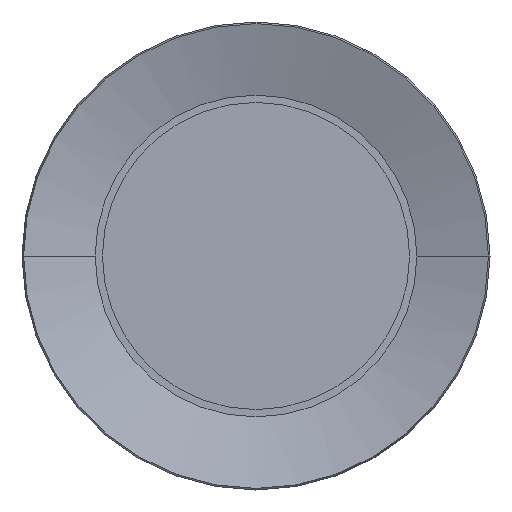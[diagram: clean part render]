
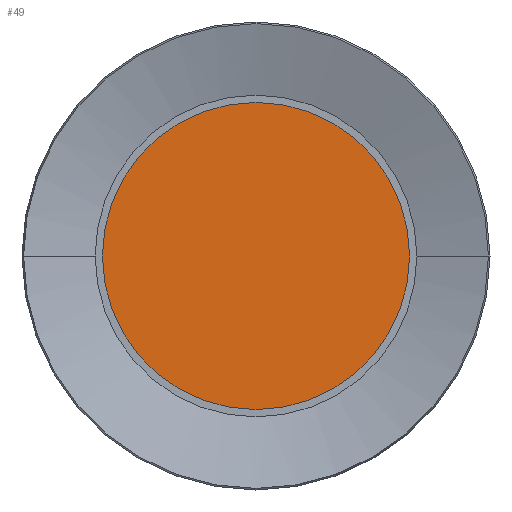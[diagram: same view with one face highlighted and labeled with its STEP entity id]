
A CAD part, front view. The second image highlights one B-rep face of the part: STEP entity #49.
In plain terms, the highlighted planar face has unit normal (0, -1, 0).
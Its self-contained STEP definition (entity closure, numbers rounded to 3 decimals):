
#2=CARTESIAN_POINT('',(0.,0.,0.));
#3=DIRECTION('',(0.,1.,0.));
#4=DIRECTION('',(1.,0.,0.));
#5=AXIS2_PLACEMENT_3D('',#2,#3,#4);
#7=CARTESIAN_POINT('',(0.,0.,0.));
#8=DIRECTION('',(0.,1.,0.));
#9=DIRECTION('',(-1.,0.,0.));
#10=AXIS2_PLACEMENT_3D('',#7,#8,#9);
#30=CARTESIAN_POINT('',(105.,0.,0.));
#31=CARTESIAN_POINT('',(-105.,0.,0.));
#32=VERTEX_POINT('',#30);
#33=VERTEX_POINT('',#31);
#38=CARTESIAN_POINT('',(0.,0.,0.));
#39=DIRECTION('',(0.,1.,0.));
#40=DIRECTION('',(1.,0.,0.));
#41=AXIS2_PLACEMENT_3D('',#38,#39,#40);
#42=PLANE('',#41);
#44=ORIENTED_EDGE('',*,*,#43,.T.);
#46=ORIENTED_EDGE('',*,*,#45,.T.);
#47=EDGE_LOOP('',(#44,#46));
#48=FACE_OUTER_BOUND('',#47,.F.);
#49=ADVANCED_FACE('',(#48),#42,.F.);
#6=CIRCLE('',#5,105.);
#11=CIRCLE('',#10,105.);
#43=EDGE_CURVE('',#32,#33,#6,.T.);
#45=EDGE_CURVE('',#33,#32,#11,.T.);
